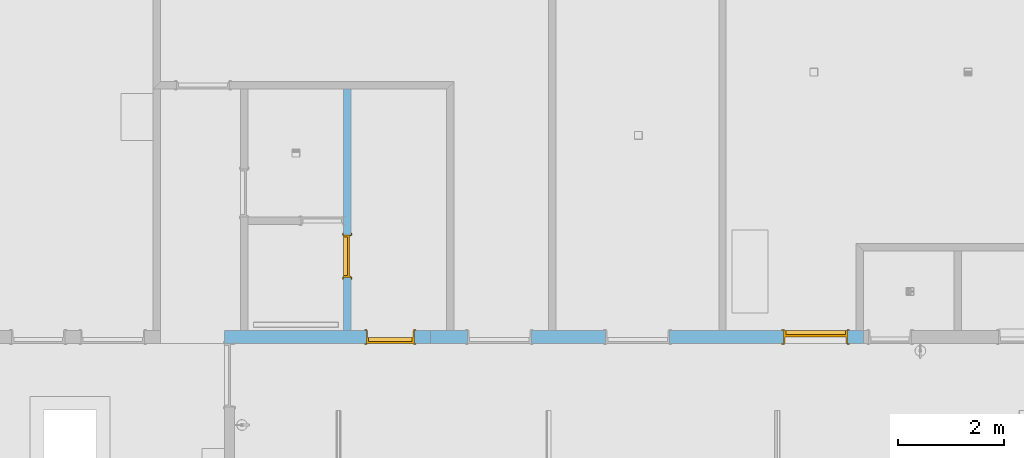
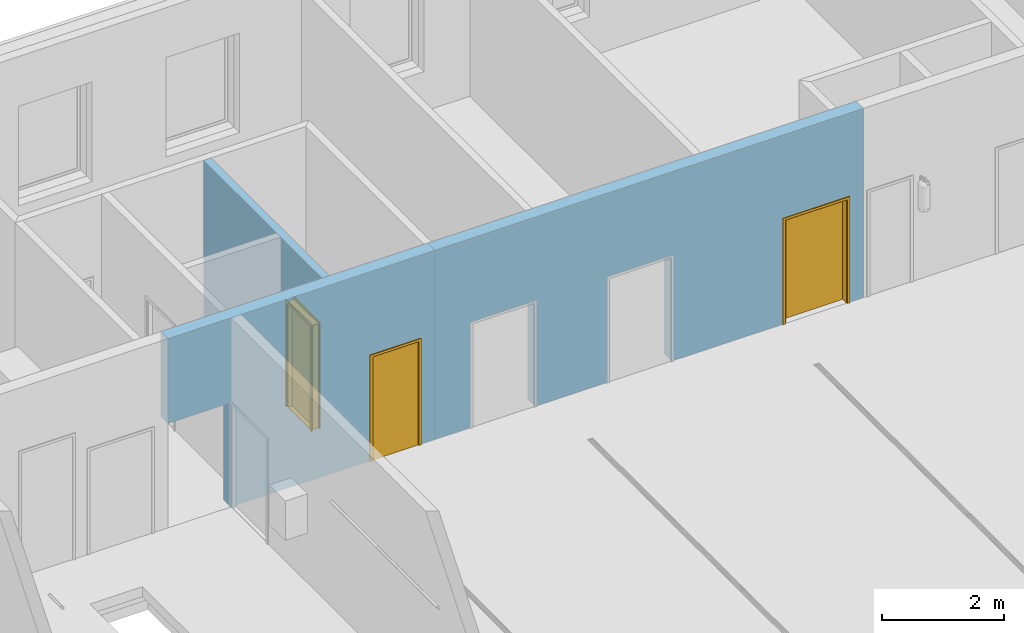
# One storey, part 41 of 112: 3 doors, 6 openings, plus 3 elements that do not belong to this part.
"""IFC2X3 building model written with IfcOpenShell, lengths in millimetres."""

import ifcopenshell
import ifcopenshell.guid

model = None  # the IFC model being written
_history = None  # IfcOwnerHistory: only IFC2X3 demands one
_inside = {}  # id of a spatial element -> (the spatial element, [elements in it])
_under = {}  # id of a project, library or spatial element -> (it, [spatial elements below it])
_declared = {}  # id of a project -> (the project, [libraries it declares])
_typed = {}  # id of a type object -> (the type object, [elements of that type])
_made_of = {}  # id of a material, layer set ... -> (it, [elements and type objects made of it])


def new_model(schema):
    """Start an empty IFC model of exactly this schema.

    Asked for "IFC4X3", IfcOpenShell would pick the latest addendum, in which some entities
    have other attributes; the version numbers below select the first issue.
    IFC2X3 requires an IfcOwnerHistory on every rooted entity: one is made here for all.
    """
    global model, _history
    if schema == "IFC4X3":
        model = ifcopenshell.file(schema_version=(4, 3, 0, 0))
    else:
        model = ifcopenshell.file(schema=schema)
    _inside.clear()
    _under.clear()
    _declared.clear()
    _typed.clear()
    _made_of.clear()
    _history = None
    if model.schema == "IFC2X3":
        org = make("IfcOrganization", Name="unknown")
        user = make(
            "IfcPersonAndOrganization",
            ThePerson=make("IfcPerson", FamilyName="unknown"),
            TheOrganization=org,
        )
        app = make(
            "IfcApplication",
            ApplicationDeveloper=org,
            Version="unknown",
            ApplicationFullName="unknown",
            ApplicationIdentifier="unknown",
        )
        _history = make(
            "IfcOwnerHistory",
            OwningUser=user,
            OwningApplication=app,
            ChangeAction="ADDED",
            CreationDate=0,
        )
    return model


def make(cls, **values):
    """One entity of the class cls with the attributes given. An attribute that is None is left unset."""
    return model.create_entity(
        cls, **{name: value for name, value in values.items() if value is not None}
    )


def entity(cls, *values):
    """Any entity or typed value of the class cls, its attributes in the order of the schema. None: left unset."""
    e = model.create_entity(cls)
    for i, value in enumerate(values):
        if value is not None:
            e[i] = value
    return e


def rooted(cls, **values):
    """An entity with a GlobalId (a new one), such as an element, a storey or a relation."""
    return make(cls, GlobalId=ifcopenshell.guid.new(), OwnerHistory=_history, **values)


def si_unit(unit_type, name, prefix=None):
    """IfcSIUnit, for example si_unit("LENGTHUNIT", "METRE", prefix="MILLI")."""
    return make("IfcSIUnit", UnitType=unit_type, Prefix=prefix, Name=name)


def converted_unit(unit_type, name, factor, base, dimensions=None, offset=None):
    """IfcConversionBasedUnit, such as the inch: factor (a typed value) times the base unit."""
    return make(
        "IfcConversionBasedUnit"
        if offset is None
        else "IfcConversionBasedUnitWithOffset",
        ConversionOffset=offset,
        Dimensions=None
        if dimensions is None
        else entity("IfcDimensionalExponents", *dimensions),
        UnitType=unit_type,
        Name=name,
        ConversionFactor=make(
            "IfcMeasureWithUnit", ValueComponent=factor, UnitComponent=base
        ),
    )


def derived_unit(unit_type, elements):
    """IfcDerivedUnit: a product of units, each with its exponent."""
    return make(
        "IfcDerivedUnit",
        Elements=[
            make("IfcDerivedUnitElement", Unit=unit, Exponent=power)
            for unit, power in elements
        ],
        UnitType=unit_type,
    )


def money_unit(currency):
    """IfcMonetaryUnit."""
    return make("IfcMonetaryUnit", Currency=currency)


def assignment(units):
    """IfcUnitAssignment: the units of a project."""
    return None if units is None else make("IfcUnitAssignment", Units=units)


def point(xyz):
    """IfcCartesianPoint."""
    return None if xyz is None else make("IfcCartesianPoint", Coordinates=xyz)


def direction(xyz):
    """IfcDirection."""
    return None if xyz is None else make("IfcDirection", DirectionRatios=xyz)


def frame(location, z_axis=None, x_axis=None):
    """IfcAxis2Placement3D, a coordinate frame: its origin and axes. An axis left out is left unset."""
    return make(
        "IfcAxis2Placement3D",
        Location=point(location),
        Axis=direction(z_axis),
        RefDirection=direction(x_axis),
    )


def frame_2d(location, x_axis=None):
    """IfcAxis2Placement2D, a coordinate frame in the plane: its origin and x axis."""
    return make(
        "IfcAxis2Placement2D", Location=point(location), RefDirection=direction(x_axis)
    )


def origin_with_axes():
    """The frame at (0, 0, 0) with the z axis (0, 0, 1) and the x axis (1, 0, 0) written out."""
    return frame((0.0, 0.0, 0.0), z_axis=(0.0, 0.0, 1.0), x_axis=(1.0, 0.0, 0.0))


def origin_2d_with_axis():
    """The frame at (0, 0) in the plane with the x axis (1, 0) written out."""
    return frame_2d((0.0, 0.0), x_axis=(1.0, 0.0))


def place(relative_to, where):
    """IfcLocalPlacement: puts the frame where relative to a parent placement (None: the world)."""
    return make(
        "IfcLocalPlacement", PlacementRelTo=relative_to, RelativePlacement=where
    )


def context(
    kind, dimensions, precision=None, world=None, true_north=None, identifier=None
):
    """IfcGeometricRepresentationContext, for example the 3D "Model" context."""
    return make(
        "IfcGeometricRepresentationContext",
        ContextIdentifier=identifier,
        ContextType=kind,
        CoordinateSpaceDimension=dimensions,
        Precision=precision,
        WorldCoordinateSystem=world,
        TrueNorth=true_north,
    )


def subcontext(parent, identifier, kind, view, scale=None):
    """IfcGeometricRepresentationSubContext, for example "Body" below "Model"."""
    return make(
        "IfcGeometricRepresentationSubContext",
        ContextIdentifier=identifier,
        ContextType=kind,
        ParentContext=parent,
        TargetScale=scale,
        TargetView=view,
    )


def project(units=None, contexts=None):
    """IfcProject with its units and contexts."""
    return rooted(
        "IfcProject",
        Name="project",
        RepresentationContexts=contexts,
        UnitsInContext=assignment(units),
    )


def spatial(cls, under=None, at=None, **own):
    """A site, building, storey or space (cls), placed at a placement, below another one or the project."""
    s = rooted(cls, ObjectPlacement=at, **own)
    if under is not None:
        _under.setdefault(under.id(), (under, []))[1].append(s)
    return s


def polyline(points):
    """IfcPolyline through the points."""
    return make("IfcPolyline", Points=[point(p) for p in points])


def profile(cls, at=None, kind="AREA", **sizes):
    """A parametric profile (cls). Its sizes go by their IFC names, for example OverallWidth=200.0."""
    return make(cls, ProfileType=kind, Position=at, **sizes)


def rectangle(**sizes):
    """IfcRectangleProfileDef."""
    return profile("IfcRectangleProfileDef", **sizes)


def outline(outer, holes=None, kind="AREA"):
    """IfcArbitraryClosedProfileDef: a profile drawn as a closed curve; with holes, ...WithVoids."""
    if holes is None:
        return make("IfcArbitraryClosedProfileDef", ProfileType=kind, OuterCurve=outer)
    return make(
        "IfcArbitraryProfileDefWithVoids",
        ProfileType=kind,
        OuterCurve=outer,
        InnerCurves=holes,
    )


def extrude(swept, where, along, depth):
    """IfcExtrudedAreaSolid: the profile swept, set in the frame where, extruded along a direction by depth."""
    return make(
        "IfcExtrudedAreaSolid",
        SweptArea=swept,
        Position=where,
        ExtrudedDirection=direction(along),
        Depth=depth,
    )


def faces_of(points, faces, orient=None, outer=None):
    """IfcFace entities. A face is a list of loops; a loop is a list of indices into points, from 0.

    orient and outer hold one flag for each loop. By default every Orientation is true, the
    first loop of a face is its IfcFaceOuterBound and the others are IfcFaceBound.
    """
    made = []
    for i, loops in enumerate(faces):
        bounds = []
        for j, loop in enumerate(loops):
            is_outer = j == 0 if outer is None else outer[i][j]
            bounds.append(
                make(
                    "IfcFaceOuterBound" if is_outer else "IfcFaceBound",
                    Bound=make("IfcPolyLoop", Polygon=[points[k] for k in loop]),
                    Orientation=True if orient is None else orient[i][j],
                )
            )
        made.append(make("IfcFace", Bounds=bounds))
    return made


def faceted_brep(points, faces, orient=None, outer=None, voids=None):
    """IfcFacetedBrep: a solid bounded by flat faces; with voids (closed shells), ...WithVoids."""
    shared = [point(p) for p in points]
    hull = make("IfcClosedShell", CfsFaces=faces_of(shared, faces, orient, outer))
    if voids is None:
        return make("IfcFacetedBrep", Outer=hull)
    return make(
        "IfcFacetedBrepWithVoids",
        Outer=hull,
        Voids=[
            make(cls, CfsFaces=faces_of(shared, fs, o, b)) for cls, fs, o, b in voids
        ],
    )


def shape(context_of_items, identifier, shape_type, items):
    """IfcShapeRepresentation: the items that make up one representation, for example the "Body"."""
    return make(
        "IfcShapeRepresentation",
        ContextOfItems=context_of_items,
        RepresentationIdentifier=identifier,
        RepresentationType=shape_type,
        Items=items,
    )


def material(Name=None, Category=None):
    """IfcMaterial."""
    return make("IfcMaterial", Name=Name, Category=Category)


def layer(
    of_material, thickness, ventilated=None, Name=None, Category=None, Priority=None
):
    """IfcMaterialLayer: one layer of a wall or slab, of a material (None: an air gap)."""
    return make(
        "IfcMaterialLayer",
        Material=of_material,
        LayerThickness=thickness,
        IsVentilated=ventilated,
        Name=Name,
        Category=Category,
        Priority=Priority,
    )


def layer_set(layers, Name=None):
    """IfcMaterialLayerSet."""
    return make("IfcMaterialLayerSet", MaterialLayers=layers, LayerSetName=Name)


def layer_usage(for_layer_set, set_direction, sense, offset, extent=None):
    """IfcMaterialLayerSetUsage: how a layer set lies in its element."""
    return make(
        "IfcMaterialLayerSetUsage",
        ForLayerSet=for_layer_set,
        LayerSetDirection=set_direction,
        DirectionSense=sense,
        OffsetFromReferenceLine=offset,
        ReferenceExtent=extent,
    )


def made_of(thing, what):
    """Note that an element or type object is made of a material, layer set ...; save() writes the relation."""
    if what is not None:
        _made_of.setdefault(what.id(), (what, []))[1].append(thing)
    return thing


def type_object(cls, material=None, **own):
    """A type object (cls), such as IfcWallType, which elements share."""
    return made_of(rooted(cls, **own), material)


def element(
    cls,
    number,
    at=None,
    inside=None,
    cuts=None,
    type_object=None,
    material=None,
    context=None,
    identifier="Body",
    shape_type=None,
    held_by="IfcProductDefinitionShape",
    body=None,
    shapes=None,
    **own,
):
    """One element of the class cls, such as IfcWall. Its Tag is "e" and its number.

    at: its placement. inside: the storey or other place that contains it. cuts: it is an
    opening in that element (IfcRelVoidsElement). A single representation is given by context,
    identifier, shape_type and body (its items); several are given by shapes. held_by: the class
    of the entity that holds the representations. save() writes the other relations.
    """
    e = rooted(cls, Tag="e%d" % number, ObjectPlacement=at, **own)
    if body is not None:
        shapes = [shape(context, identifier, shape_type, body)]
    if shapes is not None:
        e.Representation = make(held_by, Representations=shapes)
    if inside is not None:
        _inside.setdefault(inside.id(), (inside, []))[1].append(e)
    if cuts is not None:
        rooted(
            "IfcRelVoidsElement", RelatingBuildingElement=cuts, RelatedOpeningElement=e
        )
    if type_object is not None:
        _typed.setdefault(type_object.id(), (type_object, []))[1].append(e)
    return made_of(e, material)


def fill(opening, filler):
    """IfcRelFillsElement: the door or window that sits in an opening."""
    return rooted(
        "IfcRelFillsElement",
        RelatingOpeningElement=opening,
        RelatedBuildingElement=filler,
    )


def aggregate(whole, parts):
    """IfcRelAggregates: a whole, such as a stair, and the parts it consists of."""
    return rooted("IfcRelAggregates", RelatingObject=whole, RelatedObjects=parts)


def save(model, path):
    """Write the relations noted so far, then the file.

    IfcRelAggregates (storeys below a building ...), IfcRelContainedInSpatialStructure (elements
    in a storey), IfcRelDefinesByType, IfcRelAssociatesMaterial and IfcRelDeclares: one each for
    every whole, place, type object, material and project.
    """
    for whole, parts in _under.values():
        aggregate(whole, parts)
    for where, things in _inside.values():
        rooted(
            "IfcRelContainedInSpatialStructure",
            RelatedElements=things,
            RelatingStructure=where,
        )
    for kind, things in _typed.values():
        rooted("IfcRelDefinesByType", RelatedObjects=things, RelatingType=kind)
    for what, things in _made_of.values():
        rooted("IfcRelAssociatesMaterial", RelatedObjects=things, RelatingMaterial=what)
    for by, libraries in _declared.values():
        rooted("IfcRelDeclares", RelatingContext=by, RelatedDefinitions=libraries)
    model.write(path)


model = new_model("IFC2X3")

# Units and contexts
model_context = context("Model", 3, precision=0.01, world=origin_with_axes(), true_north=direction((0.0, 1.0)))
body_context = subcontext(model_context, "Body", "Model", "MODEL_VIEW")
ifc_project = project(units=[si_unit("LENGTHUNIT", "METRE", prefix="MILLI"), si_unit("AREAUNIT", "SQUARE_METRE"), si_unit("VOLUMEUNIT", "CUBIC_METRE"), converted_unit("PLANEANGLEUNIT", "DEGREE", entity("IfcPlaneAngleMeasure", 0.0174532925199), si_unit("PLANEANGLEUNIT", "RADIAN"), dimensions=[0, 0, 0, 0, 0, 0, 0]), si_unit("SOLIDANGLEUNIT", "STERADIAN"), money_unit("EUR"), converted_unit("TIMEUNIT", "Year", entity("IfcTimeMeasure", 31556926.0), si_unit("TIMEUNIT", "SECOND"), dimensions=[0, 0, 1, 0, 0, 0, 0]), si_unit("MASSUNIT", "GRAM", prefix="KILO"), si_unit("THERMODYNAMICTEMPERATUREUNIT", "DEGREE_CELSIUS"), si_unit("LUMINOUSINTENSITYUNIT", "LUMEN"), si_unit("ENERGYUNIT", "JOULE", prefix="MEGA"), derived_unit("THERMALCONDUCTANCEUNIT", [(si_unit("POWERUNIT", "WATT"), 1), (si_unit("LENGTHUNIT", "METRE"), -1), (si_unit("THERMODYNAMICTEMPERATUREUNIT", "KELVIN"), -1)]), derived_unit("SPECIFICHEATCAPACITYUNIT", [(si_unit("ENERGYUNIT", "JOULE"), 1), (si_unit("MASSUNIT", "GRAM", prefix="KILO"), -1), (si_unit("THERMODYNAMICTEMPERATUREUNIT", "KELVIN"), -1)]), derived_unit("MASSDENSITYUNIT", [(si_unit("MASSUNIT", "GRAM", prefix="KILO"), 1), (si_unit("VOLUMEUNIT", "CUBIC_METRE"), -1)])], contexts=[model_context])

# Site, building, storey
site_placement = place(None, origin_with_axes())
site = spatial("IfcSite", under=ifc_project, at=site_placement, Name="Politse- ja Piirivalveameti ning Päästeameti ühishoone", CompositionType="ELEMENT")
building_placement = place(site_placement, origin_with_axes())
building = spatial("IfcBuilding", under=site, at=building_placement, Name="Politse- ja Piirivalveameti ning Päästeameti ühishoone", CompositionType="ELEMENT")
storey_placement = place(building_placement, origin_with_axes())
storey = spatial("IfcBuildingStorey", under=building, at=storey_placement, Name="Esimene korrus", CompositionType="ELEMENT", Elevation=0.0)

# Wall, openings, door
ifc_material = material(Name="KON-05_Betoon Plokk - Konstuktsioon")
ifc_layer_1 = layer(ifc_material, 240.0, ventilated="UNKNOWN")
ifc_layer_set_1 = layer_set([ifc_layer_1], Name="SS-04_Sisesein 240")
ifc_layer_usage_1 = layer_usage(ifc_layer_set_1, "AXIS2", "NEGATIVE", 0.0)
wall_type_1 = type_object("IfcWallType", Name="SS-04_Sisesein 240 240", PredefinedType="NOTDEFINED")
wall_1_placement = place(storey_placement, frame((36544.6147098, 13000.0198611, 0.0), z_axis=(0.0, 0.0, 1.0), x_axis=(1.0, 0.0, 0.0)))
wall_1 = element("IfcWallStandardCase", 1, at=wall_1_placement, inside=storey, type_object=wall_type_1, material=ifc_layer_usage_1, Name="SS-04", context=body_context, shape_type="SweptSolid", body=[
    extrude(outline(polyline([(0.0, -240.0), (8135.917952, -240.0), (8135.917952, 0.0), (0.0, 0.0), (0.0, -240.0)])), origin_with_axes(), (0.0, 0.0, 1.0), 3800.0),
])
opening_1_placement = place(wall_1_placement, frame((1290.0, 0.0, 0.0), z_axis=(0.0, 0.0, 1.0), x_axis=(1.0, 0.0, 0.0)))
element("IfcOpeningElement", 2, at=opening_1_placement, cuts=wall_1, Name="TU-01-2", context=body_context, shape_type="SweptSolid", body=[
    extrude(rectangle(XDim=1200.0, YDim=2100.0, at=origin_2d_with_axis()), frame((0.0, 240.0, 1050.0), z_axis=(0.0, 1.0, 0.0), x_axis=(1.0, 0.0, 0.0)), (0.0, 0.0, -1.0), 720.0),
    extrude(rectangle(XDim=1274.0, YDim=2137.0, at=origin_2d_with_axis()), frame((0.0, 0.0, 1068.5), z_axis=(0.0, 1.0, 0.0), x_axis=(1.0, 0.0, 0.0)), (0.0, 0.0, 1.0), 240.0),
    extrude(rectangle(XDim=1274.0, YDim=2137.0, at=origin_2d_with_axis()), frame((0.0, -240.0, 1068.5), z_axis=(0.0, -1.0, 0.0), x_axis=(1.0, 0.0, 0.0)), (0.0, 0.0, 1.0), 240.0),
])
opening_2_placement = place(wall_1_placement, frame((3889.6116321, 0.0, 0.0), z_axis=(0.0, 0.0, 1.0), x_axis=(1.0, 0.0, 0.0)))
element("IfcOpeningElement", 3, at=opening_2_placement, cuts=wall_1, Name="TU-01-5", context=body_context, shape_type="SweptSolid", body=[
    extrude(rectangle(XDim=1200.0, YDim=2100.0, at=origin_2d_with_axis()), frame((0.0, 240.0, 1050.0), z_axis=(0.0, 1.0, 0.0), x_axis=(1.0, 0.0, 0.0)), (0.0, 0.0, -1.0), 720.0),
    extrude(rectangle(XDim=1274.0, YDim=2137.0, at=origin_2d_with_axis()), frame((0.0, 0.0, 1068.5), z_axis=(0.0, 1.0, 0.0), x_axis=(1.0, 0.0, 0.0)), (0.0, 0.0, 1.0), 240.0),
    extrude(rectangle(XDim=1274.0, YDim=2137.0, at=origin_2d_with_axis()), frame((0.0, -240.0, 1068.5), z_axis=(0.0, -1.0, 0.0), x_axis=(1.0, 0.0, 0.0)), (0.0, 0.0, 1.0), 240.0),
])
opening_3_placement = place(wall_1_placement, frame((7235.917952, 0.0, 0.0), z_axis=(0.0, 0.0, 1.0), x_axis=(1.0, 0.0, 0.0)))
opening_3 = element("IfcOpeningElement", 4, at=opening_3_placement, cuts=wall_1, Name="TU-01-2", context=body_context, shape_type="SweptSolid", body=[
    extrude(rectangle(XDim=1200.0, YDim=2100.0, at=origin_2d_with_axis()), frame((0.0, -240.0, 1050.0), z_axis=(0.0, -1.0, 0.0), x_axis=(1.0, 0.0, 0.0)), (0.0, 0.0, -1.0), 720.0),
    extrude(rectangle(XDim=1274.0, YDim=2137.0, at=origin_2d_with_axis()), frame((0.0, -240.0, 1068.5), z_axis=(0.0, -1.0, 0.0), x_axis=(1.0, 0.0, 0.0)), (0.0, 0.0, 1.0), 240.0),
    extrude(rectangle(XDim=1274.0, YDim=2137.0, at=origin_2d_with_axis()), frame((0.0, 0.0, 1068.5), z_axis=(0.0, 1.0, 0.0), x_axis=(1.0, 0.0, 0.0)), (0.0, 0.0, 1.0), 240.0),
])
door_style_1 = type_object("IfcDoorStyle", Name="Double Door Asymmetric 23", ConstructionType="NOTDEFINED", OperationType="DOUBLE_DOOR_SINGLE_SWING", ParameterTakesPrecedence=False, Sizeable=False)
door_1_placement = place(opening_3_placement, frame((600.0, 0.0, 0.0), z_axis=(0.0, 0.0, 1.0), x_axis=(-1.0, 0.0, 0.0)))
door_1 = element("IfcDoor", 5, at=door_1_placement, inside=storey, type_object=door_style_1, Name="TU-01-2", ObjectType="DOOR", OverallHeight=2100.0, OverallWidth=1200.0, context=body_context, shape_type="Brep", body=[
    faceted_brep([(40.0, 0.0, 0.0), (40.0, 0.0, 12.0), (40.0, 75.0, 12.0), (40.0, 75.0, 0.0), (1160.0, 0.0, 0.0), (1160.0, 0.0, 12.0), (1160.0, 75.0, 12.0), (1172.0, 75.0, 12.0), (28.0, 75.0, 12.0), (28.0, 75.0, 0.0), (1172.0, 75.0, 0.0), (1160.0, 75.0, 0.0)], [[[0, 1, 2, 3]], [[4, 5, 1, 0]], [[1, 5, 6, 7, 8, 2]], [[3, 2, 8, 9]], [[0, 3, 9, 10, 11, 4]], [[11, 6, 5, 4]], [[10, 7, 6, 11]], [[9, 8, 7, 10]]]),
    faceted_brep([(1200.0, 115.0, 0.0), (1175.0, 115.0, 0.0), (1175.0, 240.0, 0.0), (1200.0, 240.0, 0.0), (1200.0, 115.0, 2100.0), (1175.0, 115.0, 2075.0), (1175.0, 240.0, 2075.0), (1200.0, 240.0, 2100.0)], [[[0, 1, 2, 3]], [[0, 4, 5, 1]], [[1, 5, 6, 2]], [[3, 2, 6, 7]], [[4, 0, 3, 7]], [[5, 4, 7, 6]]]),
    faceted_brep([(0.0, 115.0, 2100.0), (25.0, 115.0, 2075.0), (25.0, 240.0, 2075.0), (0.0, 240.0, 2100.0), (0.0, 115.0, 0.0), (25.0, 115.0, 0.0), (25.0, 240.0, 0.0), (0.0, 240.0, 0.0)], [[[0, 1, 2, 3]], [[0, 4, 5, 1]], [[1, 5, 6, 2]], [[3, 2, 6, 7]], [[4, 0, 3, 7]], [[5, 4, 7, 6]]]),
    faceted_brep([(1175.0, 115.0, 2075.0), (25.0, 115.0, 2075.0), (25.0, 240.0, 2075.0), (1175.0, 240.0, 2075.0), (1200.0, 115.0, 2100.0), (0.0, 115.0, 2100.0), (0.0, 240.0, 2100.0), (1200.0, 240.0, 2100.0)], [[[0, 1, 2, 3]], [[0, 4, 5, 1]], [[1, 5, 6, 2]], [[3, 2, 6, 7]], [[4, 0, 3, 7]], [[5, 4, 7, 6]]]),
    faceted_brep([(1237.0, 259.0, 0.0), (1237.0, 240.0, 0.0), (1187.0, 240.0, 0.0), (1187.0, 259.0, 0.0), (1237.0, 259.0, 2137.0), (1237.0, 240.0, 2137.0), (1187.0, 240.0, 2087.0), (1187.0, 259.0, 2087.0)], [[[0, 1, 2, 3]], [[4, 5, 1, 0]], [[1, 5, 6, 2]], [[3, 2, 6, 7]], [[0, 3, 7, 4]], [[7, 6, 5, 4]]]),
    faceted_brep([(-37.0, 259.0, 2137.0), (-37.0, 240.0, 2137.0), (13.0, 240.0, 2087.0), (13.0, 259.0, 2087.0), (-37.0, 259.0, 0.0), (-37.0, 240.0, 0.0), (13.0, 240.0, 0.0), (13.0, 259.0, 0.0)], [[[0, 1, 2, 3]], [[4, 5, 1, 0]], [[1, 5, 6, 2]], [[3, 2, 6, 7]], [[0, 3, 7, 4]], [[7, 6, 5, 4]]]),
    faceted_brep([(1237.0, 259.0, 2137.0), (1237.0, 240.0, 2137.0), (1187.0, 240.0, 2087.0), (1187.0, 259.0, 2087.0), (-37.0, 259.0, 2137.0), (-37.0, 240.0, 2137.0), (13.0, 240.0, 2087.0), (13.0, 259.0, 2087.0)], [[[0, 1, 2, 3]], [[4, 5, 1, 0]], [[1, 5, 6, 2]], [[3, 2, 6, 7]], [[0, 3, 7, 4]], [[7, 6, 5, 4]]]),
    faceted_brep([(1237.0, -19.0, 0.0), (1187.0, -19.0, 0.0), (1187.0, 0.0, 0.0), (1237.0, 0.0, 0.0), (1237.0, -19.0, 2137.0), (1187.0, -19.0, 2087.0), (1187.0, 0.0, 2087.0), (1237.0, 0.0, 2137.0)], [[[0, 1, 2, 3]], [[0, 4, 5, 1]], [[1, 5, 6, 2]], [[3, 2, 6, 7]], [[4, 0, 3, 7]], [[5, 4, 7, 6]]]),
    faceted_brep([(-37.0, -19.0, 2137.0), (13.0, -19.0, 2087.0), (13.0, 0.0, 2087.0), (-37.0, 0.0, 2137.0), (-37.0, -19.0, 0.0), (13.0, -19.0, 0.0), (13.0, 0.0, 0.0), (-37.0, 0.0, 0.0)], [[[0, 1, 2, 3]], [[0, 4, 5, 1]], [[1, 5, 6, 2]], [[3, 2, 6, 7]], [[4, 0, 3, 7]], [[5, 4, 7, 6]]]),
    faceted_brep([(1237.0, -19.0, 2137.0), (1187.0, -19.0, 2087.0), (1187.0, 0.0, 2087.0), (1237.0, 0.0, 2137.0), (-37.0, -19.0, 2137.0), (13.0, -19.0, 2087.0), (13.0, 0.0, 2087.0), (-37.0, 0.0, 2137.0)], [[[0, 1, 2, 3]], [[0, 4, 5, 1]], [[1, 5, 6, 2]], [[3, 2, 6, 7]], [[4, 0, 3, 7]], [[5, 4, 7, 6]]]),
    faceted_brep([(1160.0, 75.0, 0.0), (1160.0, 0.0, 0.0), (1160.0, 0.0, 2060.0), (1160.0, 75.0, 2060.0), (1172.0, 75.0, 0.0), (1172.0, 115.0, 0.0), (1200.0, 115.0, 0.0), (1200.0, 0.0, 0.0), (1200.0, 0.0, 2060.0), (1172.0, 75.0, 2060.0), (1200.0, 115.0, 2060.0), (1172.0, 115.0, 2060.0)], [[[0, 1, 2, 3]], [[4, 5, 6, 7, 1, 0]], [[1, 7, 8, 2]], [[9, 3, 2, 8, 10, 11]], [[9, 4, 0, 3]], [[11, 5, 4, 9]], [[11, 10, 6, 5]], [[6, 10, 8, 7]]]),
    faceted_brep([(28.0, 75.0, 2060.0), (28.0, 115.0, 2060.0), (0.0, 115.0, 2060.0), (0.0, 0.0, 2060.0), (40.0, 0.0, 2060.0), (40.0, 75.0, 2060.0), (28.0, 75.0, 0.0), (28.0, 115.0, 0.0), (0.0, 115.0, 0.0), (0.0, 0.0, 0.0), (40.0, 0.0, 0.0), (40.0, 75.0, 0.0)], [[[0, 1, 2, 3, 4, 5]], [[0, 6, 7, 1]], [[7, 8, 2, 1]], [[2, 8, 9, 3]], [[3, 9, 10, 4]], [[5, 4, 10, 11]], [[5, 11, 6, 0]], [[6, 11, 10, 9, 8, 7]]]),
    faceted_brep([(1172.0, 115.0, 2072.0), (28.0, 115.0, 2072.0), (28.0, 115.0, 2060.0), (0.0, 115.0, 2060.0), (0.0, 115.0, 2100.0), (1200.0, 115.0, 2100.0), (1200.0, 115.0, 2060.0), (1172.0, 115.0, 2060.0), (1172.0, 75.0, 2072.0), (28.0, 75.0, 2072.0), (28.0, 75.0, 2060.0), (40.0, 75.0, 2060.0), (40.0, 0.0, 2060.0), (0.0, 0.0, 2060.0), (0.0, 0.0, 2100.0), (1200.0, 0.0, 2100.0), (1200.0, 0.0, 2060.0), (1172.0, 75.0, 2060.0), (1160.0, 0.0, 2060.0), (1160.0, 75.0, 2060.0)], [[[0, 1, 2, 3, 4, 5, 6, 7]], [[0, 8, 9, 1]], [[1, 9, 10, 2]], [[10, 11, 12, 13, 3, 2]], [[4, 3, 13, 14]], [[5, 4, 14, 15]], [[6, 5, 15, 16]], [[17, 7, 6, 16, 18, 19]], [[7, 17, 8, 0]], [[10, 9, 8, 17, 19, 11]], [[19, 18, 12, 11]], [[12, 18, 16, 15, 14, 13]]]),
    faceted_brep([(28.0, 115.0, 0.0), (328.0, 115.0, 0.0), (328.0, 75.0, 0.0), (28.0, 75.0, 0.0), (28.0, 115.0, 2072.0), (328.0, 115.0, 2072.0), (328.0, 75.0, 2072.0), (28.0, 75.0, 2072.0)], [[[0, 1, 2, 3]], [[0, 4, 5, 1]], [[1, 5, 6, 2]], [[3, 2, 6, 7]], [[4, 0, 3, 7]], [[5, 4, 7, 6]]]),
    faceted_brep([(1172.0, 115.0, 0.0), (1172.0, 75.0, 0.0), (328.0, 75.0, 0.0), (328.0, 115.0, 0.0), (1172.0, 115.0, 2072.0), (1172.0, 75.0, 2072.0), (328.0, 75.0, 2072.0), (328.0, 115.0, 2072.0)], [[[0, 1, 2, 3]], [[4, 5, 1, 0]], [[1, 5, 6, 2]], [[3, 2, 6, 7]], [[0, 3, 7, 4]], [[7, 6, 5, 4]]]),
])
fill(opening_3, door_1)

ifc_layer_usage_2 = layer_usage(ifc_layer_set_1, "AXIS2", "NEGATIVE", 0.0)
wall_2_placement = place(storey_placement, frame((31464.7100495, 13000.0198611, 0.0), z_axis=(0.0, 0.0, 1.0), x_axis=(1.0, 0.0, 0.0)))
wall_2 = element("IfcWallStandardCase", 6, at=wall_2_placement, inside=storey, type_object=wall_type_1, material=ifc_layer_usage_2, Name="SS-04", context=body_context, shape_type="SweptSolid", body=[
    extrude(outline(polyline([(0.0, -240.0), (5079.90466033, -240.0), (5079.90466033, 0.0), (0.0, 0.0), (0.0, -240.0)])), origin_with_axes(), (0.0, 0.0, 1.0), 3800.0),
])
opening_4_placement = place(wall_2_placement, frame((600.0, 0.0, 0.0), z_axis=(0.0, 0.0, 1.0), x_axis=(1.0, 0.0, 0.0)))
element("IfcOpeningElement", 7, at=opening_4_placement, cuts=wall_2, Name="TÜHI AVA", context=body_context, shape_type="SweptSolid", body=[
    extrude(rectangle(XDim=1200.0, YDim=2100.0, at=origin_2d_with_axis()), frame((0.0, 240.0, 1050.0), z_axis=(0.0, -1.0, 0.0), x_axis=(1.0, 0.0, 0.0)), (0.0, 0.0, 1.0), 720.0),
])
opening_5_placement = place(wall_2_placement, frame((4320.26560712, 0.0, 0.0), z_axis=(0.0, 0.0, 1.0), x_axis=(1.0, 0.0, 0.0)))
opening_5 = element("IfcOpeningElement", 8, at=opening_5_placement, cuts=wall_2, Name="SU-01-1", context=body_context, shape_type="SweptSolid", body=[
    extrude(rectangle(XDim=900.0, YDim=2100.0, at=origin_2d_with_axis()), frame((0.0, 240.0, 1050.0), z_axis=(0.0, 1.0, 0.0), x_axis=(1.0, 0.0, 0.0)), (0.0, 0.0, -1.0), 720.0),
    extrude(rectangle(XDim=974.0, YDim=2137.0, at=origin_2d_with_axis()), frame((0.0, 0.0, 1068.5), z_axis=(0.0, 1.0, 0.0), x_axis=(1.0, 0.0, 0.0)), (0.0, 0.0, 1.0), 240.0),
    extrude(rectangle(XDim=974.0, YDim=2137.0, at=origin_2d_with_axis()), frame((0.0, -240.0, 1068.5), z_axis=(0.0, -1.0, 0.0), x_axis=(1.0, 0.0, 0.0)), (0.0, 0.0, 1.0), 240.0),
])
door_style_2 = type_object("IfcDoorStyle", Name="Door 23", ConstructionType="NOTDEFINED", OperationType="SINGLE_SWING_LEFT", ParameterTakesPrecedence=False, Sizeable=False)
door_2_placement = place(opening_5_placement, frame((450.0, 0.0, 0.0), z_axis=(0.0, 0.0, 1.0), x_axis=(-1.0, 0.0, 0.0)))
door_2 = element("IfcDoor", 9, at=door_2_placement, inside=storey, type_object=door_style_2, Name="SU-01-1", ObjectType="DOOR", OverallHeight=2100.0, OverallWidth=900.0, context=body_context, shape_type="Brep", body=[
    faceted_brep([(28.0, 200.0, 0.0), (40.0, 200.0, 0.0), (40.0, 200.0, 12.0), (28.0, 200.0, 12.0), (872.0, 200.0, 0.0), (860.0, 200.0, 0.0), (860.0, 125.0, 0.0), (40.0, 125.0, 0.0), (40.0, 125.0, 12.0), (860.0, 125.0, 12.0), (860.0, 200.0, 12.0), (872.0, 200.0, 12.0)], [[[0, 1, 2, 3]], [[0, 4, 5, 6, 7, 1]], [[1, 7, 8, 2]], [[3, 2, 8, 9, 10, 11]], [[4, 0, 3, 11]], [[5, 4, 11, 10]], [[6, 5, 10, 9]], [[7, 6, 9, 8]]]),
    faceted_brep([(900.0, 125.0, 0.0), (900.0, 0.0, 0.0), (875.0, 0.0, 0.0), (875.0, 125.0, 0.0), (900.0, 125.0, 2100.0), (900.0, 0.0, 2100.0), (875.0, 0.0, 2075.0), (875.0, 125.0, 2075.0)], [[[0, 1, 2, 3]], [[4, 5, 1, 0]], [[1, 5, 6, 2]], [[3, 2, 6, 7]], [[0, 3, 7, 4]], [[7, 6, 5, 4]]]),
    faceted_brep([(0.0, 125.0, 2100.0), (0.0, 0.0, 2100.0), (25.0, 0.0, 2075.0), (25.0, 125.0, 2075.0), (0.0, 125.0, 0.0), (0.0, 0.0, 0.0), (25.0, 0.0, 0.0), (25.0, 125.0, 0.0)], [[[0, 1, 2, 3]], [[4, 5, 1, 0]], [[1, 5, 6, 2]], [[3, 2, 6, 7]], [[0, 3, 7, 4]], [[7, 6, 5, 4]]]),
    faceted_brep([(875.0, 125.0, 2075.0), (875.0, 0.0, 2075.0), (25.0, 0.0, 2075.0), (25.0, 125.0, 2075.0), (900.0, 125.0, 2100.0), (900.0, 0.0, 2100.0), (0.0, 0.0, 2100.0), (0.0, 125.0, 2100.0)], [[[0, 1, 2, 3]], [[4, 5, 1, 0]], [[1, 5, 6, 2]], [[3, 2, 6, 7]], [[0, 3, 7, 4]], [[7, 6, 5, 4]]]),
    faceted_brep([(937.0, -19.0, 0.0), (887.0, -19.0, 0.0), (887.0, 0.0, 0.0), (937.0, 0.0, 0.0), (937.0, -19.0, 2137.0), (887.0, -19.0, 2087.0), (887.0, 0.0, 2087.0), (937.0, 0.0, 2137.0)], [[[0, 1, 2, 3]], [[0, 4, 5, 1]], [[1, 5, 6, 2]], [[3, 2, 6, 7]], [[4, 0, 3, 7]], [[5, 4, 7, 6]]]),
    faceted_brep([(-37.0, -19.0, 2137.0), (13.0, -19.0, 2087.0), (13.0, 0.0, 2087.0), (-37.0, 0.0, 2137.0), (-37.0, -19.0, 0.0), (13.0, -19.0, 0.0), (13.0, 0.0, 0.0), (-37.0, 0.0, 0.0)], [[[0, 1, 2, 3]], [[0, 4, 5, 1]], [[1, 5, 6, 2]], [[3, 2, 6, 7]], [[4, 0, 3, 7]], [[5, 4, 7, 6]]]),
    faceted_brep([(937.0, -19.0, 2137.0), (887.0, -19.0, 2087.0), (887.0, 0.0, 2087.0), (937.0, 0.0, 2137.0), (-37.0, -19.0, 2137.0), (13.0, -19.0, 2087.0), (13.0, 0.0, 2087.0), (-37.0, 0.0, 2137.0)], [[[0, 1, 2, 3]], [[0, 4, 5, 1]], [[1, 5, 6, 2]], [[3, 2, 6, 7]], [[4, 0, 3, 7]], [[5, 4, 7, 6]]]),
    faceted_brep([(937.0, 259.0, 0.0), (937.0, 240.0, 0.0), (887.0, 240.0, 0.0), (887.0, 259.0, 0.0), (937.0, 259.0, 2137.0), (937.0, 240.0, 2137.0), (887.0, 240.0, 2087.0), (887.0, 259.0, 2087.0)], [[[0, 1, 2, 3]], [[4, 5, 1, 0]], [[1, 5, 6, 2]], [[3, 2, 6, 7]], [[0, 3, 7, 4]], [[7, 6, 5, 4]]]),
    faceted_brep([(-37.0, 259.0, 2137.0), (-37.0, 240.0, 2137.0), (13.0, 240.0, 2087.0), (13.0, 259.0, 2087.0), (-37.0, 259.0, 0.0), (-37.0, 240.0, 0.0), (13.0, 240.0, 0.0), (13.0, 259.0, 0.0)], [[[0, 1, 2, 3]], [[4, 5, 1, 0]], [[1, 5, 6, 2]], [[3, 2, 6, 7]], [[0, 3, 7, 4]], [[7, 6, 5, 4]]]),
    faceted_brep([(937.0, 259.0, 2137.0), (937.0, 240.0, 2137.0), (887.0, 240.0, 2087.0), (887.0, 259.0, 2087.0), (-37.0, 259.0, 2137.0), (-37.0, 240.0, 2137.0), (13.0, 240.0, 2087.0), (13.0, 259.0, 2087.0)], [[[0, 1, 2, 3]], [[4, 5, 1, 0]], [[1, 5, 6, 2]], [[3, 2, 6, 7]], [[0, 3, 7, 4]], [[7, 6, 5, 4]]]),
    faceted_brep([(860.0, 200.0, 0.0), (860.0, 125.0, 0.0), (860.0, 125.0, 2060.0), (860.0, 200.0, 2060.0), (872.0, 200.0, 0.0), (872.0, 240.0, 0.0), (900.0, 240.0, 0.0), (900.0, 125.0, 0.0), (900.0, 125.0, 2060.0), (872.0, 200.0, 2060.0), (900.0, 240.0, 2060.0), (872.0, 240.0, 2060.0)], [[[0, 1, 2, 3]], [[4, 5, 6, 7, 1, 0]], [[1, 7, 8, 2]], [[9, 3, 2, 8, 10, 11]], [[9, 4, 0, 3]], [[11, 5, 4, 9]], [[11, 10, 6, 5]], [[6, 10, 8, 7]]]),
    faceted_brep([(28.0, 200.0, 2060.0), (28.0, 240.0, 2060.0), (0.0, 240.0, 2060.0), (0.0, 125.0, 2060.0), (40.0, 125.0, 2060.0), (40.0, 200.0, 2060.0), (28.0, 200.0, 0.0), (28.0, 240.0, 0.0), (0.0, 240.0, 0.0), (0.0, 125.0, 0.0), (40.0, 125.0, 0.0), (40.0, 200.0, 0.0)], [[[0, 1, 2, 3, 4, 5]], [[0, 6, 7, 1]], [[7, 8, 2, 1]], [[2, 8, 9, 3]], [[3, 9, 10, 4]], [[5, 4, 10, 11]], [[5, 11, 6, 0]], [[6, 11, 10, 9, 8, 7]]]),
    faceted_brep([(872.0, 240.0, 2072.0), (28.0, 240.0, 2072.0), (28.0, 240.0, 2060.0), (0.0, 240.0, 2060.0), (0.0, 240.0, 2100.0), (900.0, 240.0, 2100.0), (900.0, 240.0, 2060.0), (872.0, 240.0, 2060.0), (872.0, 200.0, 2072.0), (28.0, 200.0, 2072.0), (28.0, 200.0, 2060.0), (40.0, 200.0, 2060.0), (40.0, 125.0, 2060.0), (0.0, 125.0, 2060.0), (0.0, 125.0, 2100.0), (900.0, 125.0, 2100.0), (900.0, 125.0, 2060.0), (872.0, 200.0, 2060.0), (860.0, 125.0, 2060.0), (860.0, 200.0, 2060.0)], [[[0, 1, 2, 3, 4, 5, 6, 7]], [[0, 8, 9, 1]], [[1, 9, 10, 2]], [[10, 11, 12, 13, 3, 2]], [[4, 3, 13, 14]], [[5, 4, 14, 15]], [[6, 5, 15, 16]], [[17, 7, 6, 16, 18, 19]], [[7, 17, 8, 0]], [[10, 9, 8, 17, 19, 11]], [[19, 18, 12, 11]], [[12, 18, 16, 15, 14, 13]]]),
    faceted_brep([(28.0, 240.0, 0.0), (872.0, 240.0, 0.0), (872.0, 200.0, 0.0), (28.0, 200.0, 0.0), (28.0, 240.0, 2072.0), (872.0, 240.0, 2072.0), (872.0, 200.0, 2072.0), (28.0, 200.0, 2072.0)], [[[0, 1, 2, 3]], [[0, 4, 5, 1]], [[1, 5, 6, 2]], [[3, 2, 6, 7]], [[4, 0, 3, 7]], [[5, 4, 7, 6]]]),
])
fill(opening_5, door_2)

# Wall, opening, door
ifc_layer_2 = layer(ifc_material, 140.0, ventilated="UNKNOWN")
ifc_layer_set_2 = layer_set([ifc_layer_2], Name="SS-02_Sisesein 140")
ifc_layer_usage_3 = layer_usage(ifc_layer_set_2, "AXIS2", "POSITIVE", 0.0)
wall_type_2 = type_object("IfcWallType", Name="SS-02_Sisesein 140 140", PredefinedType="NOTDEFINED")
wall_3_placement = place(storey_placement, frame((35044.7100495, 13000.0198611, 0.0), z_axis=(0.0, 0.0, 1.0), x_axis=(0.0, 1.0, 0.0)))
wall_3 = element("IfcWallStandardCase", 10, at=wall_3_placement, inside=storey, type_object=wall_type_2, material=ifc_layer_usage_3, Name="SS-02", context=body_context, shape_type="SweptSolid", body=[
    extrude(outline(polyline([(0.0, 0.0), (4540.0, 0.0), (4540.0, 140.0), (0.0, 140.0), (0.0, 0.0)])), origin_with_axes(), (0.0, 0.0, 1.0), 3280.0),
])
opening_6_placement = place(wall_3_placement, frame((1400.0, 0.0, 0.0), z_axis=(0.0, 0.0, 1.0), x_axis=(1.0, 0.0, 0.0)))
opening_6 = element("IfcOpeningElement", 11, at=opening_6_placement, cuts=wall_3, Name="SU-01-5", context=body_context, shape_type="SweptSolid", body=[
    extrude(rectangle(XDim=800.0, YDim=2100.0, at=origin_2d_with_axis()), frame((0.0, -140.0, 1050.0), z_axis=(0.0, -1.0, 0.0), x_axis=(1.0, 0.0, 0.0)), (0.0, 0.0, -1.0), 420.0),
    extrude(rectangle(XDim=874.0, YDim=2137.0, at=origin_2d_with_axis()), frame((0.0, 0.0, 1068.5), z_axis=(0.0, -1.0, 0.0), x_axis=(1.0, 0.0, 0.0)), (0.0, 0.0, 1.0), 140.0),
    extrude(rectangle(XDim=874.0, YDim=2137.0, at=origin_2d_with_axis()), frame((0.0, 140.0, 1068.5), z_axis=(0.0, 1.0, 0.0), x_axis=(1.0, 0.0, 0.0)), (0.0, 0.0, 1.0), 140.0),
])
door_style_3 = type_object("IfcDoorStyle", Name="Door 23", ConstructionType="NOTDEFINED", OperationType="SINGLE_SWING_LEFT", ParameterTakesPrecedence=False, Sizeable=False)
door_3_placement = place(opening_6_placement, frame((400.0, 0.0, 0.0), z_axis=(0.0, 0.0, 1.0), x_axis=(-1.0, 0.0, 0.0)))
door_3 = element("IfcDoor", 12, at=door_3_placement, inside=storey, type_object=door_style_3, Name="SU-01-5", ObjectType="DOOR", OverallHeight=2100.0, OverallWidth=800.0, context=body_context, shape_type="Brep", body=[
    faceted_brep([(40.0, -140.0, 0.0), (40.0, -140.0, 12.0), (40.0, -65.0, 12.0), (40.0, -65.0, 0.0), (760.0, -140.0, 0.0), (760.0, -140.0, 12.0), (760.0, -65.0, 12.0), (772.0, -65.0, 12.0), (28.0, -65.0, 12.0), (28.0, -65.0, 0.0), (772.0, -65.0, 0.0), (760.0, -65.0, 0.0)], [[[0, 1, 2, 3]], [[4, 5, 1, 0]], [[1, 5, 6, 7, 8, 2]], [[3, 2, 8, 9]], [[0, 3, 9, 10, 11, 4]], [[11, 6, 5, 4]], [[10, 7, 6, 11]], [[9, 8, 7, 10]]]),
    faceted_brep([(800.0, -25.0, 0.0), (775.0, -25.0, 0.0), (775.0, 0.0, 0.0), (800.0, 0.0, 0.0), (800.0, -25.0, 2100.0), (775.0, -25.0, 2075.0), (775.0, 0.0, 2075.0), (800.0, 0.0, 2100.0)], [[[0, 1, 2, 3]], [[0, 4, 5, 1]], [[1, 5, 6, 2]], [[3, 2, 6, 7]], [[4, 0, 3, 7]], [[5, 4, 7, 6]]]),
    faceted_brep([(0.0, -25.0, 2100.0), (25.0, -25.0, 2075.0), (25.0, 0.0, 2075.0), (0.0, 0.0, 2100.0), (0.0, -25.0, 0.0), (25.0, -25.0, 0.0), (25.0, 0.0, 0.0), (0.0, 0.0, 0.0)], [[[0, 1, 2, 3]], [[0, 4, 5, 1]], [[1, 5, 6, 2]], [[3, 2, 6, 7]], [[4, 0, 3, 7]], [[5, 4, 7, 6]]]),
    faceted_brep([(775.0, -25.0, 2075.0), (25.0, -25.0, 2075.0), (25.0, 0.0, 2075.0), (775.0, 0.0, 2075.0), (800.0, -25.0, 2100.0), (0.0, -25.0, 2100.0), (0.0, 0.0, 2100.0), (800.0, 0.0, 2100.0)], [[[0, 1, 2, 3]], [[0, 4, 5, 1]], [[1, 5, 6, 2]], [[3, 2, 6, 7]], [[4, 0, 3, 7]], [[5, 4, 7, 6]]]),
    faceted_brep([(837.0, 19.0, 0.0), (837.0, 0.0, 0.0), (787.0, 0.0, 0.0), (787.0, 19.0, 0.0), (837.0, 19.0, 2137.0), (837.0, 0.0, 2137.0), (787.0, 0.0, 2087.0), (787.0, 19.0, 2087.0)], [[[0, 1, 2, 3]], [[4, 5, 1, 0]], [[1, 5, 6, 2]], [[3, 2, 6, 7]], [[0, 3, 7, 4]], [[7, 6, 5, 4]]]),
    faceted_brep([(-37.0, 19.0, 2137.0), (-37.0, 0.0, 2137.0), (13.0, 0.0, 2087.0), (13.0, 19.0, 2087.0), (-37.0, 19.0, 0.0), (-37.0, 0.0, 0.0), (13.0, 0.0, 0.0), (13.0, 19.0, 0.0)], [[[0, 1, 2, 3]], [[4, 5, 1, 0]], [[1, 5, 6, 2]], [[3, 2, 6, 7]], [[0, 3, 7, 4]], [[7, 6, 5, 4]]]),
    faceted_brep([(837.0, 19.0, 2137.0), (837.0, 0.0, 2137.0), (787.0, 0.0, 2087.0), (787.0, 19.0, 2087.0), (-37.0, 19.0, 2137.0), (-37.0, 0.0, 2137.0), (13.0, 0.0, 2087.0), (13.0, 19.0, 2087.0)], [[[0, 1, 2, 3]], [[4, 5, 1, 0]], [[1, 5, 6, 2]], [[3, 2, 6, 7]], [[0, 3, 7, 4]], [[7, 6, 5, 4]]]),
    faceted_brep([(837.0, -159.0, 0.0), (787.0, -159.0, 0.0), (787.0, -140.0, 0.0), (837.0, -140.0, 0.0), (837.0, -159.0, 2137.0), (787.0, -159.0, 2087.0), (787.0, -140.0, 2087.0), (837.0, -140.0, 2137.0)], [[[0, 1, 2, 3]], [[0, 4, 5, 1]], [[1, 5, 6, 2]], [[3, 2, 6, 7]], [[4, 0, 3, 7]], [[5, 4, 7, 6]]]),
    faceted_brep([(-37.0, -159.0, 2137.0), (13.0, -159.0, 2087.0), (13.0, -140.0, 2087.0), (-37.0, -140.0, 2137.0), (-37.0, -159.0, 0.0), (13.0, -159.0, 0.0), (13.0, -140.0, 0.0), (-37.0, -140.0, 0.0)], [[[0, 1, 2, 3]], [[0, 4, 5, 1]], [[1, 5, 6, 2]], [[3, 2, 6, 7]], [[4, 0, 3, 7]], [[5, 4, 7, 6]]]),
    faceted_brep([(837.0, -159.0, 2137.0), (787.0, -159.0, 2087.0), (787.0, -140.0, 2087.0), (837.0, -140.0, 2137.0), (-37.0, -159.0, 2137.0), (13.0, -159.0, 2087.0), (13.0, -140.0, 2087.0), (-37.0, -140.0, 2137.0)], [[[0, 1, 2, 3]], [[0, 4, 5, 1]], [[1, 5, 6, 2]], [[3, 2, 6, 7]], [[4, 0, 3, 7]], [[5, 4, 7, 6]]]),
    faceted_brep([(760.0, -65.0, 0.0), (760.0, -140.0, 0.0), (760.0, -140.0, 2060.0), (760.0, -65.0, 2060.0), (772.0, -65.0, 0.0), (772.0, -25.0, 0.0), (800.0, -25.0, 0.0), (800.0, -140.0, 0.0), (800.0, -140.0, 2060.0), (772.0, -65.0, 2060.0), (800.0, -25.0, 2060.0), (772.0, -25.0, 2060.0)], [[[0, 1, 2, 3]], [[4, 5, 6, 7, 1, 0]], [[1, 7, 8, 2]], [[9, 3, 2, 8, 10, 11]], [[9, 4, 0, 3]], [[11, 5, 4, 9]], [[11, 10, 6, 5]], [[6, 10, 8, 7]]]),
    faceted_brep([(28.0, -65.0, 2060.0), (28.0, -25.0, 2060.0), (0.0, -25.0, 2060.0), (0.0, -140.0, 2060.0), (40.0, -140.0, 2060.0), (40.0, -65.0, 2060.0), (28.0, -65.0, 0.0), (28.0, -25.0, 0.0), (0.0, -25.0, 0.0), (0.0, -140.0, 0.0), (40.0, -140.0, 0.0), (40.0, -65.0, 0.0)], [[[0, 1, 2, 3, 4, 5]], [[0, 6, 7, 1]], [[7, 8, 2, 1]], [[2, 8, 9, 3]], [[3, 9, 10, 4]], [[5, 4, 10, 11]], [[5, 11, 6, 0]], [[6, 11, 10, 9, 8, 7]]]),
    faceted_brep([(772.0, -25.0, 2072.0), (28.0, -25.0, 2072.0), (28.0, -25.0, 2060.0), (0.0, -25.0, 2060.0), (0.0, -25.0, 2100.0), (800.0, -25.0, 2100.0), (800.0, -25.0, 2060.0), (772.0, -25.0, 2060.0), (772.0, -65.0, 2072.0), (28.0, -65.0, 2072.0), (28.0, -65.0, 2060.0), (40.0, -65.0, 2060.0), (40.0, -140.0, 2060.0), (0.0, -140.0, 2060.0), (0.0, -140.0, 2100.0), (800.0, -140.0, 2100.0), (800.0, -140.0, 2060.0), (772.0, -65.0, 2060.0), (760.0, -140.0, 2060.0), (760.0, -65.0, 2060.0)], [[[0, 1, 2, 3, 4, 5, 6, 7]], [[0, 8, 9, 1]], [[1, 9, 10, 2]], [[10, 11, 12, 13, 3, 2]], [[4, 3, 13, 14]], [[5, 4, 14, 15]], [[6, 5, 15, 16]], [[17, 7, 6, 16, 18, 19]], [[7, 17, 8, 0]], [[10, 9, 8, 17, 19, 11]], [[19, 18, 12, 11]], [[12, 18, 16, 15, 14, 13]]]),
    faceted_brep([(28.0, -25.0, 0.0), (772.0, -25.0, 0.0), (772.0, -65.0, 0.0), (28.0, -65.0, 0.0), (28.0, -25.0, 2072.0), (772.0, -25.0, 2072.0), (772.0, -65.0, 2072.0), (28.0, -65.0, 2072.0)], [[[0, 1, 2, 3]], [[0, 4, 5, 1]], [[1, 5, 6, 2]], [[3, 2, 6, 7]], [[4, 0, 3, 7]], [[5, 4, 7, 6]]]),
])
fill(opening_6, door_3)

save(model, "model.ifc")
